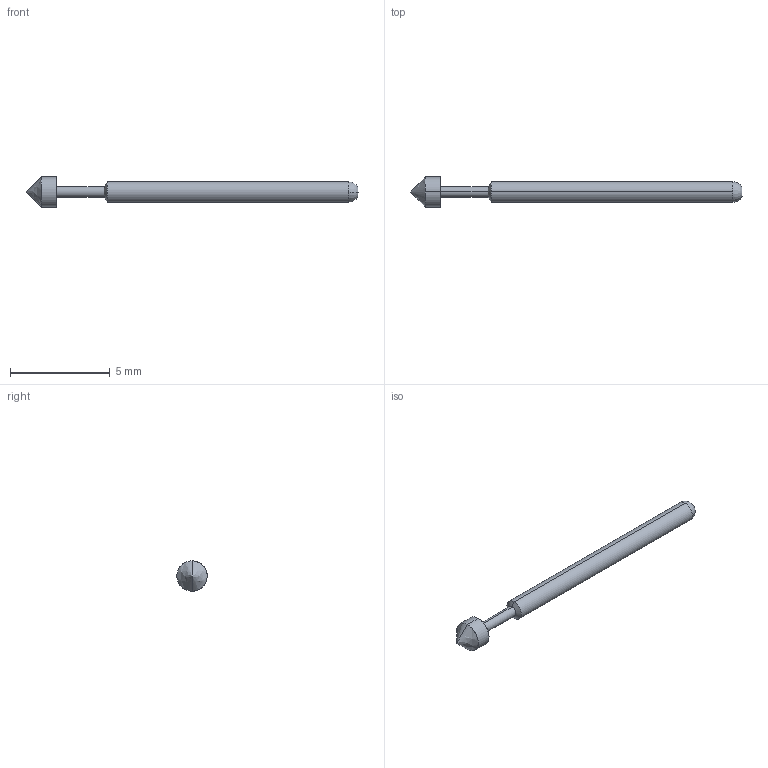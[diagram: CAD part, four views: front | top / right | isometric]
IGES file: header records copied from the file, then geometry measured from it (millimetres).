
Start section: SolidWorks IGES file using analytic representation for surfaces
Global section: file name: Z:\probe solid model mockups\Solidworks models\IGES Files\HPA-1\HPA-1E.IGS; native system: SolidWorks 2006 by SolidWorks Corporation; preprocessor: SolidWorks 2006 by SolidWorks Corporation; author: tsakatani; date: 071220.112029; units: inch
Bounding box: 16.64 x 1.52 x 1.52 mm (x, y, z)
Surface area: 52.8 mm2 (no closed solid volume)
Topology: 0 solids, 0 shells, 14 faces, 100 edges, 98 vertices
Faces by surface type: revolution 12, bspline 2
